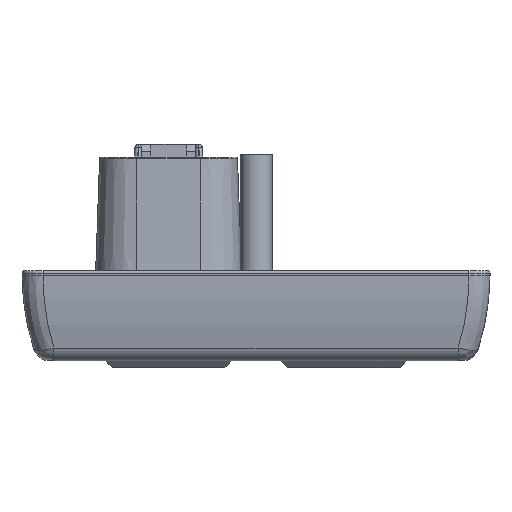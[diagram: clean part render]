
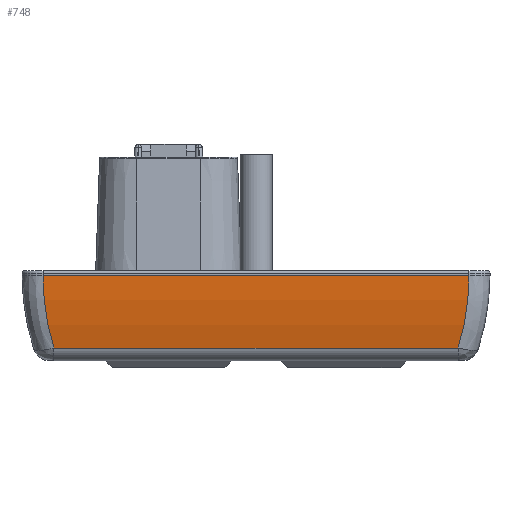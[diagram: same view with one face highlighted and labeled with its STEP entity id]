
A CAD part, left-side view. The second image highlights one B-rep face of the part: STEP entity #748.
In plain terms, the highlighted cylindrical face has radius 46.355 mm (diameter 92.71 mm), a partial arc.
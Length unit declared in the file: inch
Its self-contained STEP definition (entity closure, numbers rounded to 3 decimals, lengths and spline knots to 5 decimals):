
#26 = EDGE_CURVE ( 'NONE', #48, #54, #15150, .T. ) ;
#48 = VERTEX_POINT ( 'NONE', #15292 ) ;
#54 = VERTEX_POINT ( 'NONE', #15349 ) ;
#742 = ORIENTED_EDGE ( 'NONE', *, *, #26, .T. ) ;
#747 = ORIENTED_EDGE ( 'NONE', *, *, #874, .T. ) ;
#748 = ADVANCED_FACE ( 'NONE', ( #16450 ), #16448, .T. ) ;
#773 = ORIENTED_EDGE ( 'NONE', *, *, #784, .T. ) ;
#784 = EDGE_CURVE ( 'NONE', #876, #48, #16657, .T. ) ;
#798 = ORIENTED_EDGE ( 'NONE', *, *, #799, .T. ) ;
#799 = EDGE_CURVE ( 'NONE', #54, #875, #16954, .T. ) ;
#815 = EDGE_LOOP ( 'NONE', ( #798, #747, #773, #742 ) ) ;
#874 = EDGE_CURVE ( 'NONE', #875, #876, #16981, .T. ) ;
#875 = VERTEX_POINT ( 'NONE', #17095 ) ;
#876 = VERTEX_POINT ( 'NONE', #17094 ) ;
#15128 = DIRECTION ( 'NONE',  ( 0., 1., 0. ) ) ;
#15129 = VECTOR ( 'NONE', #15128, 39.37008 ) ;
#15149 = CARTESIAN_POINT ( 'NONE',  ( 1.825, 1.3075, 0. ) ) ;
#15150 = LINE ( 'NONE', #15149, #15129 ) ;
#15292 = CARTESIAN_POINT ( 'NONE',  ( 1.825, -1.3525, 0. ) ) ;
#15349 = CARTESIAN_POINT ( 'NONE',  ( 1.825, 1.1825, 0. ) ) ;
#16396 = DIRECTION ( 'NONE',  ( 0., 0., -1. ) ) ;
#16398 = AXIS2_PLACEMENT_3D ( 'NONE', #16458, #16457, #16396 ) ;
#16448 = CYLINDRICAL_SURFACE ( 'NONE', #16398, 1.825 ) ;
#16450 = FACE_OUTER_BOUND ( 'NONE', #815, .T. ) ;
#16457 = DIRECTION ( 'NONE',  ( 0., -1., 0. ) ) ;
#16458 = CARTESIAN_POINT ( 'NONE',  ( 0., 2.5, 0. ) ) ;
#16646 = CARTESIAN_POINT ( 'NONE',  ( 1.825, -1.3525, 0. ) ) ;
#16647 = CARTESIAN_POINT ( 'NONE',  ( 1.825, -1.3525, 0.07366 ) ) ;
#16648 = CARTESIAN_POINT ( 'NONE',  ( 1.82056, -1.34697, 0.14658 ) ) ;
#16649 = CARTESIAN_POINT ( 'NONE',  ( 1.80748, -1.33053, 0.25489 ) ) ;
#16650 = CARTESIAN_POINT ( 'NONE',  ( 1.80206, -1.32371, 0.29064 ) ) ;
#16651 = CARTESIAN_POINT ( 'NONE',  ( 1.78932, -1.30757, 0.36088 ) ) ;
#16652 = CARTESIAN_POINT ( 'NONE',  ( 1.78198, -1.29825, 0.39547 ) ) ;
#16656 = CARTESIAN_POINT ( 'NONE',  ( 1.77373, -1.28769, 0.42954 ) ) ;
#16657 = B_SPLINE_CURVE_WITH_KNOTS ( 'NONE', 3,
 ( #16656, #16652, #16651, #16650, #16649, #16648, #16647, #16646 ),
 .UNSPECIFIED., .F., .F.,
 ( 4, 2, 2, 4 ),
 ( 0.00211, 0.00489, 0.00768, 0.01325 ),
 .UNSPECIFIED. ) ;
#16799 = CARTESIAN_POINT ( 'NONE',  ( 1.82056, 1.17697, 0.14658 ) ) ;
#16800 = CARTESIAN_POINT ( 'NONE',  ( 1.825, 1.1825, 0.07366 ) ) ;
#16801 = CARTESIAN_POINT ( 'NONE',  ( 1.825, 1.1825, 0. ) ) ;
#16954 = B_SPLINE_CURVE_WITH_KNOTS ( 'NONE', 3,
 ( #16801, #16800, #16799, #16962, #16961, #16960, #16959, #16958 ),
 .UNSPECIFIED., .F., .F.,
 ( 4, 2, 2, 4 ),
 ( 0., 0.00558, 0.00837, 0.01116 ),
 .UNSPECIFIED. ) ;
#16958 = CARTESIAN_POINT ( 'NONE',  ( 1.77373, 1.11769, 0.42954 ) ) ;
#16959 = CARTESIAN_POINT ( 'NONE',  ( 1.78198, 1.12825, 0.39547 ) ) ;
#16960 = CARTESIAN_POINT ( 'NONE',  ( 1.78932, 1.13757, 0.36088 ) ) ;
#16961 = CARTESIAN_POINT ( 'NONE',  ( 1.80206, 1.15371, 0.29063 ) ) ;
#16962 = CARTESIAN_POINT ( 'NONE',  ( 1.80748, 1.16053, 0.25487 ) ) ;
#16978 = DIRECTION ( 'NONE',  ( 0., -1., 0. ) ) ;
#16981 = LINE ( 'NONE', #17113, #17112 ) ;
#17094 = CARTESIAN_POINT ( 'NONE',  ( 1.77373, -1.28769, 0.42954 ) ) ;
#17095 = CARTESIAN_POINT ( 'NONE',  ( 1.77373, 1.11769, 0.42954 ) ) ;
#17112 = VECTOR ( 'NONE', #16978, 39.37008 ) ;
#17113 = CARTESIAN_POINT ( 'NONE',  ( 1.77373, 2.5, 0.42954 ) ) ;
